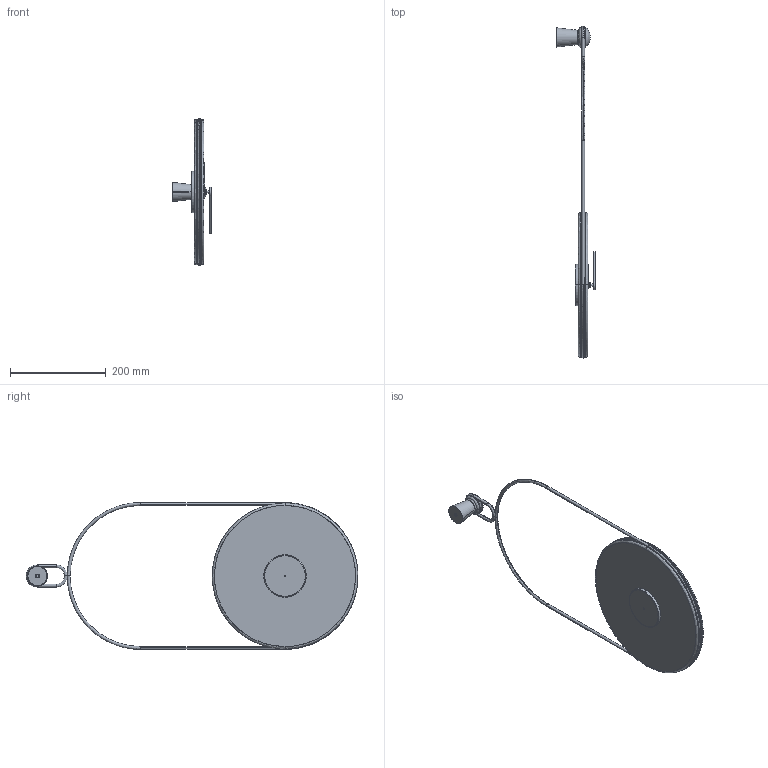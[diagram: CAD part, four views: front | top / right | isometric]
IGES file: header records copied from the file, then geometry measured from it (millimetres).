
Start section: SolidWorks IGES file using analytic representation for surfaces
Global section: file name: N:\OT\OFICINA TECNICA\PROYECTOS\EN DESARROLLO\NUEVOS_RELOJES_2018\RELOS_ESLABÓN_&_COLGANTE\3D\SOLIDWORKS\ESLABÓN_MARMOL.IGS; native system: SolidWorks 2016; preprocessor: SolidWorks 2016; author: Usuario; date: 190408.121934; units: millimetre
Bounding box: 79.73 x 691.84 x 306 mm (x, y, z)
Surface area: 252396.9 mm2 (no closed solid volume)
Topology: 0 solids, 0 shells, 199 faces, 3176 edges, 3175 vertices
Faces by surface type: bspline 111, revolution 88
